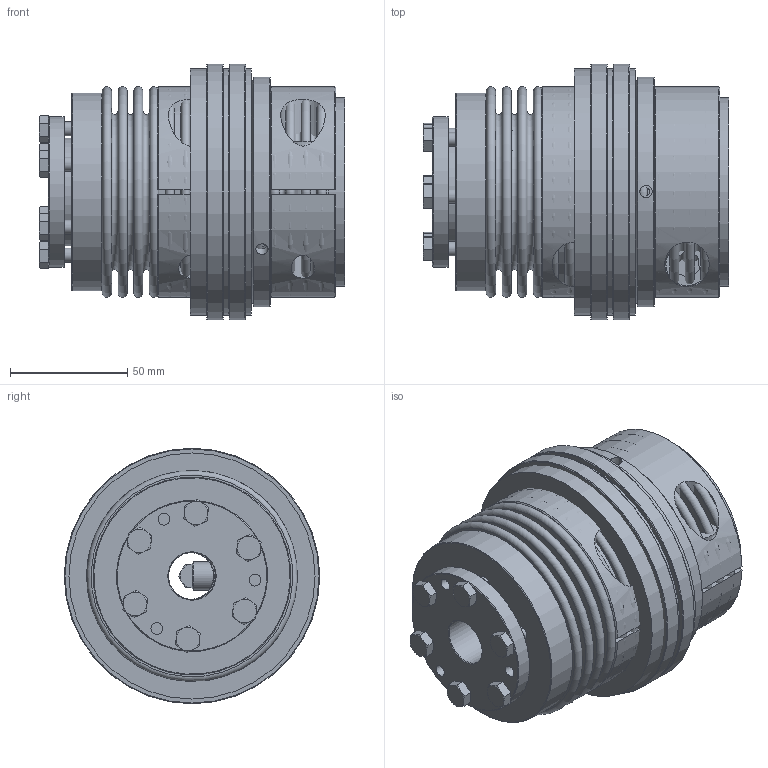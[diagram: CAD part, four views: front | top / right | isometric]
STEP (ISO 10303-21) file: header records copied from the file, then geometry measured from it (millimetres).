
FILE_DESCRIPTION( ( 'Unknown' ), '1' );
FILE_NAME( 'C:/Dokumente und Einstellungen/SKarpstein/Desktop/Korrigierte 3D Modelle/KBK-B-IK/KBK-BIK-200-127.stp', 'Unknown', ( 'Unknown' ), ( 'Unknown' ), 'XStep 1.0', 'Unknown', ' ' );
FILE_SCHEMA( ( 'automotive_design' ) );
Length unit declared in the file: millimetre
Products named in the file (13): Assem1; Assem2; Assem3; Zylinderschraube DIN 912_2; BA200_Standard_3; Hex Screw GradeC_ISO_ISO 4018 - M6 x 25-NN_3; KB200_Standard_3; Stellring 200; Druckring 200; KBK L-K-200 Grundkörper; Klemmnabe 200; Flansch BK200; BL200_Standard_0
Bounding box: 130.55 x 109 x 109 mm (x, y, z)
Volume: 1261393.7 mm3; surface area: 482512.3 mm2
Topology: 34 solids, 34 shells, 661 faces, 1374 edges, 880 vertices
Faces by surface type: plane 275, cone 176, cylinder 151, torus 59
Full cylindrical faces by diameter (mm): 3.242 x6, 5 x9, 5.2 x12, 6 x31, 6.5 x18, 10.106 x2, 12 x3, 12.5 x2, 18 x3, 19 x2, 20 x5, 45 x2, 46 x3, 47 x2, 50 x4, 60 x2, 62 x2, 63 x3, 64.5 x3, 65 x2, 66 x4, 77 x2, 79.2 x4, 80.4 x4, 84.5 x3, 90 x2, 98 x2, 105 x4, 109 x2
Entity records: 5718 total; most frequent: CARTESIAN_POINT 1339, DIRECTION 914, ORIENTED_EDGE 566, AXIS2_PLACEMENT_3D 434, EDGE_LOOP 424, FACE_OUTER_BOUND 295, EDGE_CURVE 283, VERTEX_POINT 251
